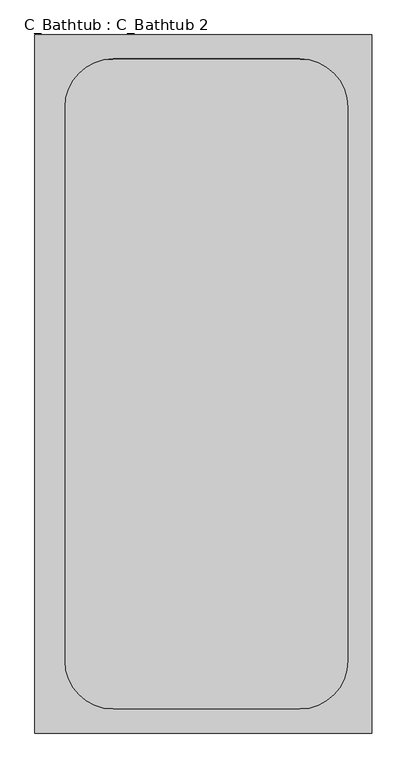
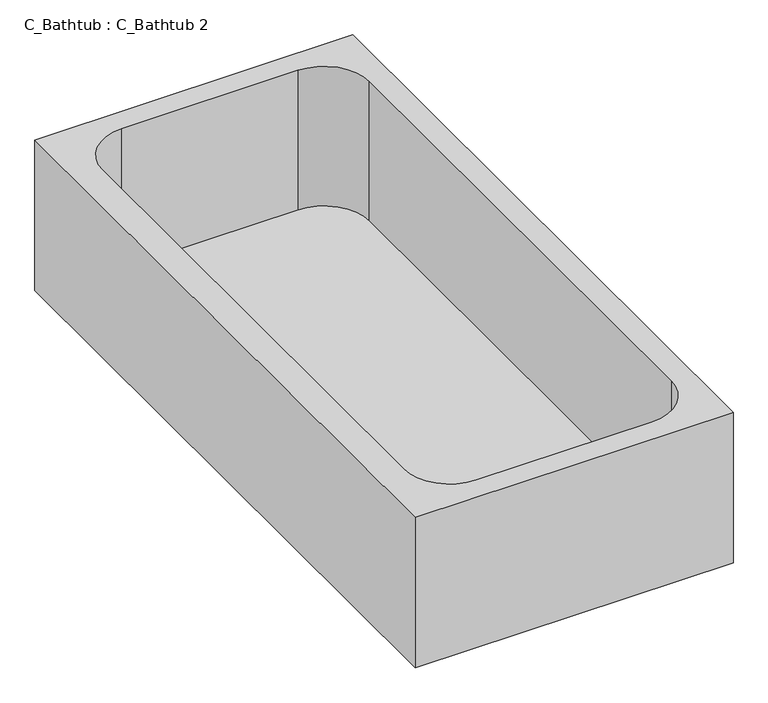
"""IFC4 building model written with IfcOpenShell, lengths in millimetres: flow terminal geometry, C_Bathtub : C_Bathtub 2."""

from ifc_helpers import new_model, si_unit, frame, origin, place, context, project, spatial, polyline, circle_curve, source, transform, mapped, element, save
from ifc_brep_helpers import plane_surface, revolved_surface, advanced_brep


def c_bathtub_c_bathtub_2_94195e66(model_context):
    return source(origin(), model_context, "Body", "AdvancedBrep", [
        advanced_brep(
        [(711.2, 1473.2, 355.6), (0.0, 1473.2, 355.6), (0.0, 0.0, 355.6), (711.2, 0.0, 355.6), (165.1, 1422.4, 355.6), (558.8, 1422.4, 355.6), (660.4, 1320.8, 355.6), (660.4, 152.4, 355.6), (558.8, 50.8, 355.6), (165.1, 50.8, 355.6), (63.5, 152.4, 355.6), (63.5, 1320.8, 355.6), (711.2, 1473.2, 0.0), (711.2, 0.0, 0.0), (0.0, 0.0, 0.0), (0.0, 1473.2, 0.0), (558.8, 1422.4, 25.4), (165.1, 1422.4, 25.4), (63.5, 1320.8, 25.4), (63.5, 152.4, 25.4), (165.1, 50.8, 25.4), (558.8, 50.8, 25.4), (660.4, 152.4, 25.4), (660.4, 1320.8, 25.4)],
        [
            (0, 1),
            (1, 2),
            (2, 3),
            (3, 0),
            (4, 5),
            (5, 6, circle_curve(frame((558.8, 1320.8, 355.6), z_axis=(0.0, 0.0, -1.0), x_axis=(1.0, 0.0, 0.0)), 101.6)),
            (6, 7),
            (7, 8, circle_curve(frame((558.8, 152.4, 355.6), z_axis=(0.0, 0.0, -1.0), x_axis=(1.0, 0.0, 0.0)), 101.6)),
            (8, 9),
            (9, 10, circle_curve(frame((165.1, 152.4, 355.6), z_axis=(0.0, 0.0, -1.0), x_axis=(1.0, 0.0, 0.0)), 101.6)),
            (10, 11),
            (11, 4, circle_curve(frame((165.1, 1320.8, 355.6), z_axis=(0.0, 0.0, -1.0), x_axis=(1.0, 0.0, 0.0)), 101.6)),
            (12, 13),
            (13, 14),
            (14, 15),
            (15, 12),
            (0, 12),
            (15, 1),
            (14, 2),
            (13, 3),
            (16, 17),
            (17, 18, circle_curve(frame((165.1, 1320.8, 25.4), z_axis=(0.0, 0.0, 1.0), x_axis=(1.0, 0.0, 0.0)), 101.6)),
            (18, 19),
            (19, 20, circle_curve(frame((165.1, 152.4, 25.4), z_axis=(0.0, 0.0, 1.0), x_axis=(1.0, 0.0, 0.0)), 101.6)),
            (20, 21),
            (21, 22, circle_curve(frame((558.8, 152.4, 25.4), z_axis=(0.0, 0.0, 1.0), x_axis=(1.0, 0.0, 0.0)), 101.6)),
            (22, 23),
            (23, 16, circle_curve(frame((558.8, 1320.8, 25.4), z_axis=(0.0, 0.0, 1.0), x_axis=(1.0, 0.0, 0.0)), 101.6)),
            (16, 5),
            (4, 17),
            (18, 11),
            (10, 19),
            (20, 9),
            (8, 21),
            (22, 7),
            (6, 23),
        ],
        [
            plane_surface(frame((0.0, 1473.2, 355.6), z_axis=(0.0, 0.0, 1.0), x_axis=(-1.0, 0.0, 0.0))),
            plane_surface(frame((0.0, 1473.2, 0.0), z_axis=(0.0, 0.0, -1.0), x_axis=(1.0, 0.0, 0.0))),
            plane_surface(frame((711.2, 1473.2, 355.6), z_axis=(0.0, 1.0, 0.0), x_axis=(0.0, 0.0, -1.0))),
            plane_surface(frame((0.0, 1473.2, 355.6), z_axis=(-1.0, 0.0, 0.0), x_axis=(0.0, 0.0, -1.0))),
            plane_surface(frame((0.0, 0.0, 355.6), z_axis=(0.0, -1.0, 0.0), x_axis=(0.0, 0.0, -1.0))),
            plane_surface(frame((711.2, 0.0, 355.6), z_axis=(1.0, 0.0, 0.0), x_axis=(0.0, 0.0, -1.0))),
            plane_surface(frame((165.1, 1422.4, 25.4), z_axis=(0.0, 0.0, 1.0), x_axis=(1.0, 0.0, 0.0))),
            plane_surface(frame((558.8, 1422.4, 355.6), z_axis=(0.0, -1.0, 0.0), x_axis=(0.0, 0.0, -1.0))),
            plane_surface(frame((63.5, 1320.8, 355.6), z_axis=(1.0, 0.0, 0.0), x_axis=(0.0, 0.0, -1.0))),
            plane_surface(frame((165.1, 50.8, 355.6), z_axis=(0.0, 1.0, 0.0), x_axis=(0.0, 0.0, -1.0))),
            plane_surface(frame((660.4, 152.4, 355.6), z_axis=(-1.0, 0.0, 0.0), x_axis=(0.0, 0.0, -1.0))),
            revolved_surface(polyline([(266.7, 1320.8, 355.6), (266.7, 1320.8, 25.4)]), (165.1, 1320.8, 25.4), (0.0, 0.0, 1.0)),
            revolved_surface(polyline([(266.7, 152.4, 355.6), (266.7, 152.4, 25.4)]), (165.1, 152.4, 25.4), (0.0, 0.0, 1.0)),
            revolved_surface(polyline([(660.4, 152.4, 355.6), (660.4, 152.4, 25.4)]), (558.8, 152.4, 25.4), (0.0, 0.0, 1.0)),
            revolved_surface(polyline([(660.4, 1320.8, 355.6), (660.4, 1320.8, 25.4)]), (558.8, 1320.8, 25.4), (0.0, 0.0, 1.0)),
        ],
        [
            (0, [[1, 2, 3, 4], [5, 6, 7, 8, 9, 10, 11, 12]]),
            (1, [[13, 14, 15, 16]]),
            (2, [[-1, 17, -16, 18]]),
            (3, [[-2, -18, -15, 19]]),
            (4, [[-3, -19, -14, 20]]),
            (5, [[-4, -20, -13, -17]]),
            (6, [[21, 22, 23, 24, 25, 26, 27, 28]]),
            (7, [[-21, 29, -5, 30]]),
            (8, [[-23, 31, -11, 32]]),
            (9, [[-25, 33, -9, 34]]),
            (10, [[-27, 35, -7, 36]]),
            (11, [[-22, -30, -12, -31]]),
            (12, [[-24, -32, -10, -33]]),
            (13, [[-26, -34, -8, -35]]),
            (14, [[-28, -36, -6, -29]]),
        ],
    ),
    ])


if __name__ == "__main__":
    model = new_model("IFC4")
    model_context = context("Model", 3, world=origin())
    ifc_project = project(units=[si_unit("LENGTHUNIT", "METRE", prefix="MILLI")], contexts=[model_context])
    site = spatial("IfcSite", under=ifc_project)
    building = spatial("IfcBuilding", under=site)
    placement = place(None, origin())
    c_bathtub_c_bathtub_2_shape = c_bathtub_c_bathtub_2_94195e66(model_context)
    element("IfcFlowTerminal", 1, ObjectType="C_Bathtub : C_Bathtub 2", at=placement, inside=building, context=model_context, shape_type="MappedRepresentation", body=[
        mapped(c_bathtub_c_bathtub_2_shape, transform((0.0, 0.0, 0.0), x_axis=(1.0, 0.0, 0.0), y_axis=(0.0, 1.0, 0.0), z_axis=(0.0, 0.0, 1.0))),
    ])
    save(model, "model.ifc")
